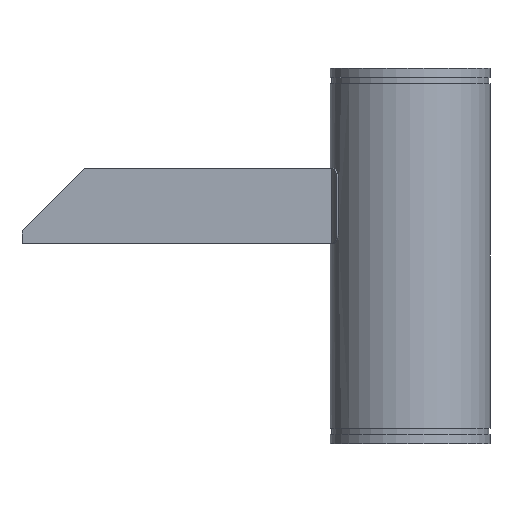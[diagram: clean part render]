
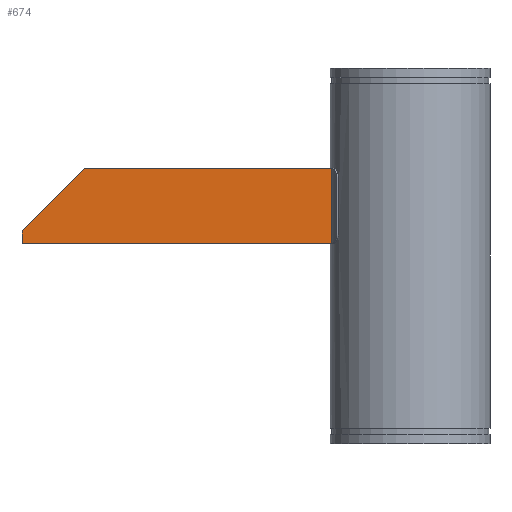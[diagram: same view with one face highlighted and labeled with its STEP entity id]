
A CAD part, top view. The second image highlights one B-rep face of the part: STEP entity #674.
In plain terms, the highlighted planar face has unit normal (0, 0, 1).
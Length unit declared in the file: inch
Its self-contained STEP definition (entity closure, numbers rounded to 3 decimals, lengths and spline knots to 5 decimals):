
#28=PLANE('',#746);
#93=FACE_OUTER_BOUND('',#127,.T.);
#127=EDGE_LOOP('',(#511,#512,#513,#514,#515));
#164=LINE('',#1133,#214);
#181=LINE('',#1189,#231);
#186=LINE('',#1221,#236);
#187=LINE('',#1223,#237);
#188=LINE('',#1224,#238);
#214=VECTOR('',#813,0.3937);
#231=VECTOR('',#848,0.3937);
#236=VECTOR('',#885,0.3937);
#237=VECTOR('',#886,0.3937);
#238=VECTOR('',#887,0.3937);
#278=VERTEX_POINT('',#1130);
#279=VERTEX_POINT('',#1132);
#293=VERTEX_POINT('',#1187);
#304=VERTEX_POINT('',#1220);
#305=VERTEX_POINT('',#1222);
#348=EDGE_CURVE('',#279,#278,#164,.T.);
#369=EDGE_CURVE('',#293,#278,#181,.T.);
#386=EDGE_CURVE('',#293,#304,#186,.T.);
#387=EDGE_CURVE('',#305,#304,#187,.T.);
#388=EDGE_CURVE('',#279,#305,#188,.T.);
#511=ORIENTED_EDGE('',*,*,#348,.T.);
#512=ORIENTED_EDGE('',*,*,#369,.F.);
#513=ORIENTED_EDGE('',*,*,#386,.T.);
#514=ORIENTED_EDGE('',*,*,#387,.F.);
#515=ORIENTED_EDGE('',*,*,#388,.F.);
#674=ADVANCED_FACE('',(#93),#28,.T.);
#746=AXIS2_PLACEMENT_3D('',#1219,#883,#884);
#813=DIRECTION('',(0.,1.,0.));
#848=DIRECTION('',(1.,0.,0.));
#883=DIRECTION('center_axis',(0.,0.,1.));
#884=DIRECTION('ref_axis',(1.,0.,0.));
#885=DIRECTION('',(-0.707,-0.707,0.));
#886=DIRECTION('',(0.,1.,0.));
#887=DIRECTION('',(-1.,0.,0.));
#1130=CARTESIAN_POINT('',(-6.26344,7.,2.));
#1132=CARTESIAN_POINT('',(-6.26344,1.,2.));
#1133=CARTESIAN_POINT('',(-6.26344,1.,2.));
#1187=CARTESIAN_POINT('',(-26.,7.,2.));
#1189=CARTESIAN_POINT('',(0.,7.,2.));
#1219=CARTESIAN_POINT('Origin',(-31.,1.,2.));
#1220=CARTESIAN_POINT('',(-31.,2.,2.));
#1221=CARTESIAN_POINT('',(-31.25,1.75,2.));
#1222=CARTESIAN_POINT('',(-31.,1.,2.));
#1223=CARTESIAN_POINT('',(-31.,1.,2.));
#1224=CARTESIAN_POINT('',(0.,1.,2.));
